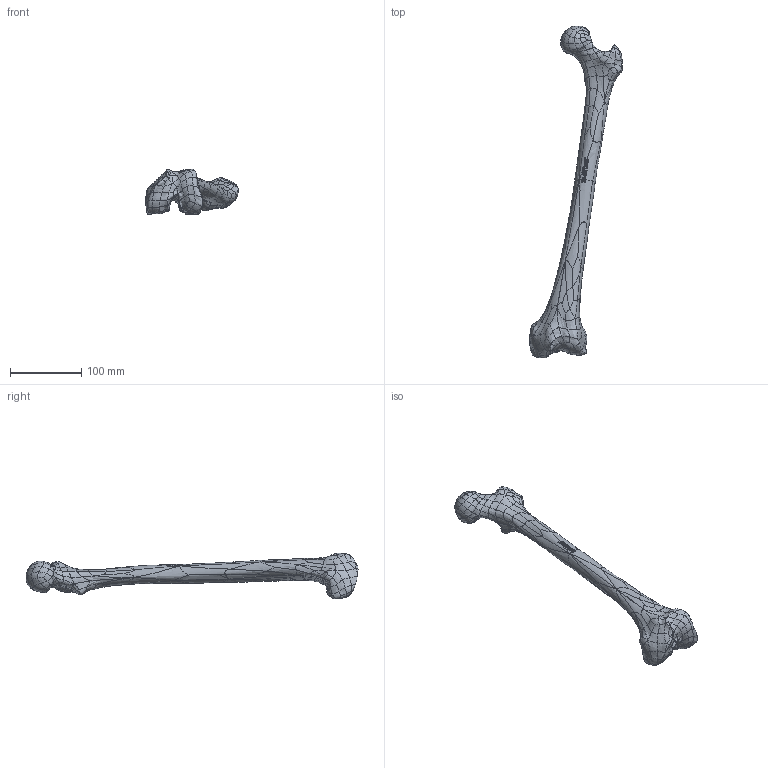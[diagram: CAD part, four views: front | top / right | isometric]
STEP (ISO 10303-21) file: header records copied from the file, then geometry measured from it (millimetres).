
FILE_DESCRIPTION (( 'STEP AP203' ), '1' );
FILE_NAME ('1121-4.STEP', '2025-05-26T20:37:20', ( '' ), ( '' ), 'SwSTEP 2.0', 'SolidWorks 2024', '' );
FILE_SCHEMA (( 'CONFIG_CONTROL_DESIGN' ));
Length unit declared in the file: millimetre
Products named in the file (1): 1121-4
Bounding box: 130.05 x 466.29 x 64.52 mm (x, y, z)
Volume: 483212 mm3; surface area: 61382.3 mm2
Topology: 1 solids, 1 shells, 656 faces, 1487 edges, 842 vertices
Faces by surface type: bspline 651, plane 5
Entity records: 68904 total; most frequent: CARTESIAN_POINT 59373, ORIENTED_EDGE 2974, EDGE_CURVE 1487, B_SPLINE_CURVE_WITH_KNOTS 1487, VERTEX_POINT 842, EDGE_LOOP 665, ADVANCED_FACE 656, FACE_OUTER_BOUND 656
